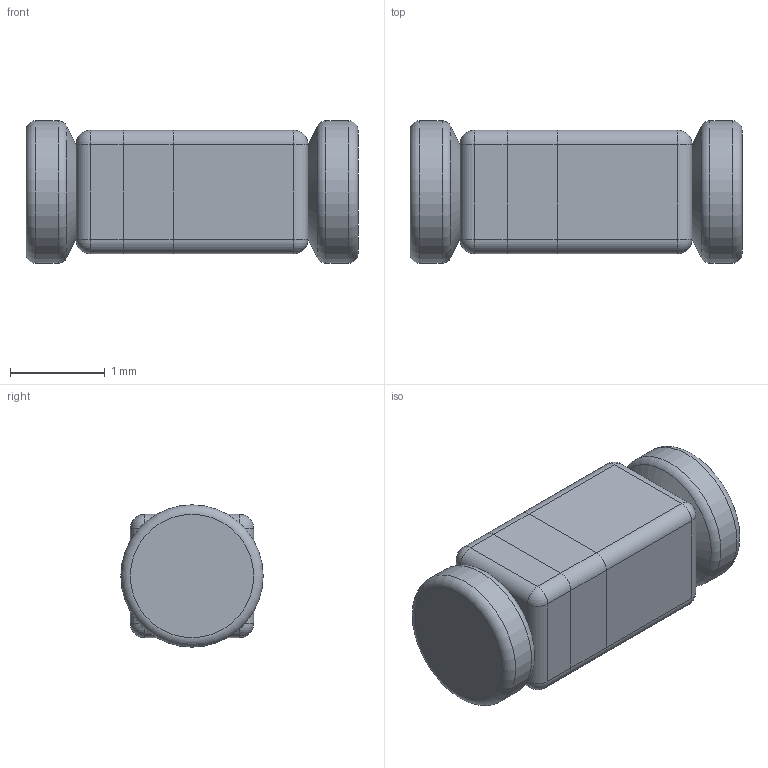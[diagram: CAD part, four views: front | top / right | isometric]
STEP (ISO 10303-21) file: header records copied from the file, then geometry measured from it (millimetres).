
FILE_DESCRIPTION(/* description */ ('Unknown'),/* implementation_level */ '2;1');
FILE_NAME(/* name */ 'QUADRO-MELF',/* time_stamp */ '2023-10-06T10:04:19+08:00',/* author */ ('Unknown'),/* organization */ ('Unknown'),/* preprocessor_version */ 'ST-DEVELOPER v18.104',/* originating_system */ 'Solid Edge',/* authorisation */ 'Unknown');
FILE_SCHEMA (('AUTOMOTIVE_DESIGN {1 0 10303 214 3 1 1}'));
Length unit declared in the file: millimetre
Products named in the file (1): QUADRO-MELF
Bounding box: 3.5 x 1.5 x 1.5 mm (x, y, z)
Volume: 5.7 mm3; surface area: 32 mm2
Topology: 5 solids, 5 shells, 58 faces, 125 edges, 69 vertices
Faces by surface type: plane 22, cylinder 22, sphere 8, torus 4, cone 2
Full cylindrical faces by diameter (mm): 1.5 x2
Entity records: 1479 total; most frequent: DIRECTION 274, CARTESIAN_POINT 231, ORIENTED_EDGE 212, AXIS2_PLACEMENT_3D 109, EDGE_CURVE 106, VERTEX_POINT 66, EDGE_LOOP 66, FACE_BOUND 66
